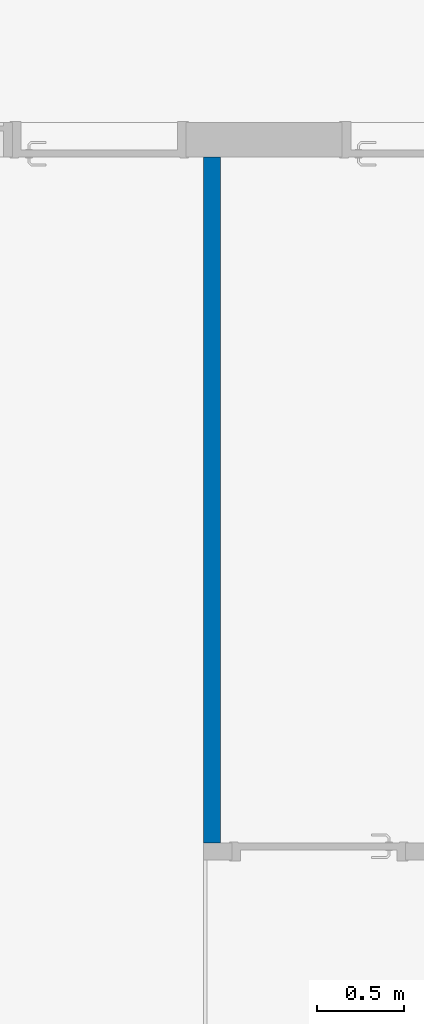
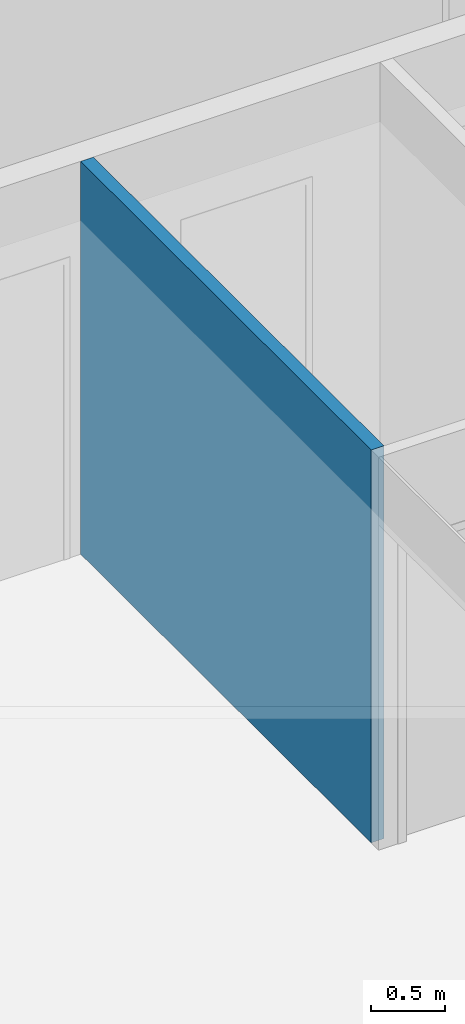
# One storey, part 29 of 87: 1 wall.
"""IFC2X3 building model written with IfcOpenShell, lengths in centimetres."""

from ifc_helpers import new_model, entity, si_unit, converted_unit, derived_unit, direction, frame, frame_2d, origin, place, context, subcontext, project, spatial, rectangle, extrude, material, layer, layer_set, layer_usage, type_object, element, save


model = new_model("IFC2X3")

# Units and contexts
model_context = context("Model", 3, precision=0.001, world=origin(), true_north=direction((6.12303176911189e-17, 1.0)))
body_context = subcontext(model_context, "Body", "Model", "MODEL_VIEW")
ifc_project = project(units=[si_unit("LENGTHUNIT", "METRE", prefix="CENTI"), si_unit("AREAUNIT", "SQUARE_METRE"), si_unit("VOLUMEUNIT", "CUBIC_METRE"), converted_unit("PLANEANGLEUNIT", "DEGREE", entity("IfcRatioMeasure", 0.0174532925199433), si_unit("PLANEANGLEUNIT", "RADIAN"), dimensions=[0, 0, 0, 0, 0, 0, 0]), si_unit("MASSUNIT", "GRAM", prefix="KILO"), derived_unit("MASSDENSITYUNIT", [(si_unit("MASSUNIT", "GRAM", prefix="KILO"), 1), (si_unit("LENGTHUNIT", "METRE"), -3)]), si_unit("TIMEUNIT", "SECOND"), si_unit("FREQUENCYUNIT", "HERTZ"), si_unit("THERMODYNAMICTEMPERATUREUNIT", "DEGREE_CELSIUS"), derived_unit("THERMALTRANSMITTANCEUNIT", [(si_unit("MASSUNIT", "GRAM", prefix="KILO"), 1), (si_unit("THERMODYNAMICTEMPERATUREUNIT", "KELVIN"), -1), (si_unit("TIMEUNIT", "SECOND"), -3)]), derived_unit("VOLUMETRICFLOWRATEUNIT", [(si_unit("LENGTHUNIT", "METRE"), 3), (si_unit("TIMEUNIT", "SECOND"), -1)]), si_unit("ELECTRICCURRENTUNIT", "AMPERE"), si_unit("ELECTRICVOLTAGEUNIT", "VOLT"), si_unit("POWERUNIT", "WATT"), si_unit("FORCEUNIT", "NEWTON", prefix="KILO"), si_unit("ILLUMINANCEUNIT", "LUX"), si_unit("LUMINOUSFLUXUNIT", "LUMEN"), si_unit("LUMINOUSINTENSITYUNIT", "CANDELA"), derived_unit("USERDEFINED", [(si_unit("MASSUNIT", "GRAM", prefix="KILO"), -1), (si_unit("LENGTHUNIT", "METRE"), -2), (si_unit("TIMEUNIT", "SECOND"), 3), (si_unit("LUMINOUSFLUXUNIT", "LUMEN"), 1)]), derived_unit("LINEARVELOCITYUNIT", [(si_unit("LENGTHUNIT", "METRE"), 1), (si_unit("TIMEUNIT", "SECOND"), -1)]), si_unit("PRESSUREUNIT", "PASCAL"), derived_unit("USERDEFINED", [(si_unit("LENGTHUNIT", "METRE"), -2), (si_unit("MASSUNIT", "GRAM", prefix="KILO"), 1), (si_unit("TIMEUNIT", "SECOND"), -2)])], contexts=[model_context])

# Site, building, storey
site_placement = place(None, frame((-2781.94577612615, 7442.24238424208, 0.0)))
site = spatial("IfcSite", under=ifc_project, at=site_placement, Name="Default", CompositionType="ELEMENT")
building_placement = place(site_placement, origin())
building = spatial("IfcBuilding", under=site, at=building_placement, CompositionType="ELEMENT")
storey_placement = place(building_placement, frame((0.0, 0.0, 774.0)))
storey = spatial("IfcBuildingStorey", under=building, at=storey_placement, Name="TR - N02 - ARCH", CompositionType="ELEMENT", Elevation=774.0)

# Wall
ifc_material_1 = material(Name="01 - Enduit/Plâtre")
ifc_layer_1 = layer(ifc_material_1, 1.3)
ifc_material_2 = material(Name="00 - Isolant")
ifc_layer_2 = layer(ifc_material_2, 7.4)
ifc_layer_3 = layer(ifc_material_1, 1.3)
ifc_layer_set = layer_set([ifc_layer_1, ifc_layer_2, ifc_layer_3], Name="Mur de base:06 - cloisons - Ba13 10cm")
ifc_layer_usage = layer_usage(ifc_layer_set, "AXIS2", "NEGATIVE", 5.0)
wall_type = type_object("IfcWallType", Name="Mur de base:06 - cloisons - Ba13 10cm", PredefinedType="STANDARD", material=ifc_layer_set)
wall_placement = place(storey_placement, frame((-6729.49987760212, -1110.0, 0.0), z_axis=(0.0, 0.0, 1.0), x_axis=(0.0, -1.0, 0.0)))
element("IfcWallStandardCase", 1, at=wall_placement, inside=storey, type_object=wall_type, material=ifc_layer_usage, Name="Mur de base:06 - cloisons - Ba13 10cm", ObjectType="Mur de base:06 - cloisons - Ba13 10cm", context=body_context, shape_type="SweptSolid", body=[
    extrude(rectangle(XDim=395.039516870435, YDim=9.99999999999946, at=frame_2d((197.519758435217, -1.02140518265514e-14), x_axis=(-1.0, 0.0))), origin(), (0.0, 0.0, 1.0), 326.0),
])

save(model, "model.ifc")
